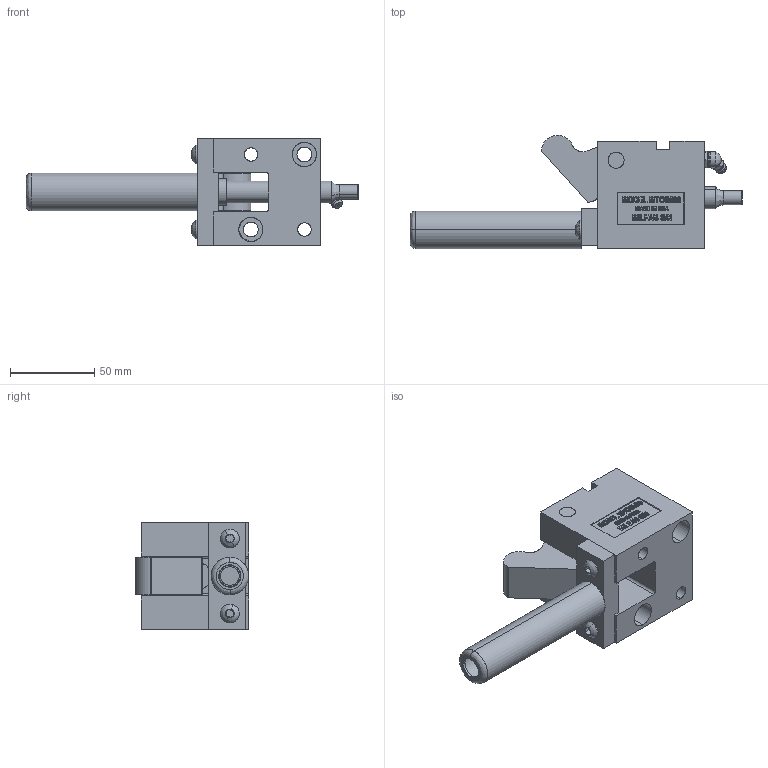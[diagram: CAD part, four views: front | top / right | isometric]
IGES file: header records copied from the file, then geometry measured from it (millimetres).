
Start section: SolidWorks IGES file using analytic representation for surfaces
Global section: file name: Y:\METRIC With OFFSETRIGGER\TOPMOUNT\MTOS50045\OPEN\MTOS50045-O.IGS; native system: SolidWorks 2006 by SolidWorks Corporation; preprocessor: SolidWorks 2006 by SolidWorks Corporation; author: Jim; date: 090121.133649; units: inch
Bounding box: 196.72 x 67.08 x 63.5 mm (x, y, z)
Surface area: 69954.6 mm2 (no closed solid volume)
Topology: 0 solids, 0 shells, 595 faces, 7349 edges, 7345 vertices
Faces by surface type: bspline 479, revolution 116
